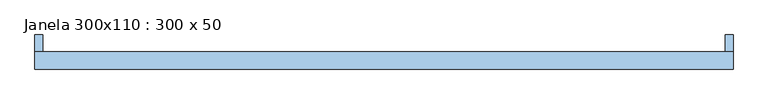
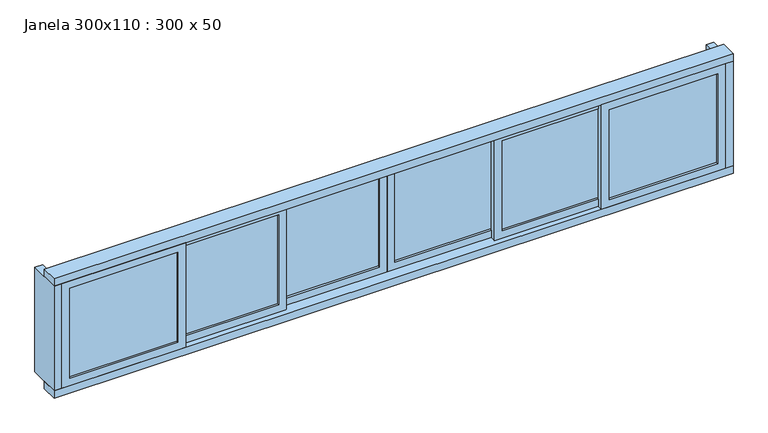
"""IFC4 building model written with IfcOpenShell, lengths in millimetres: window geometry, Janela 300x110 : 300 x 50."""

from ifc_helpers import new_model, si_unit, frame, origin, place, context, project, spatial, polyline, outline, extrude, source, transform, mapped, element, save


def janela_300x110_300_x_50_d4cdcd56(model_context):
    return source(origin(), model_context, "Body", "SweptSolid", [
        extrude(outline(polyline([(94.4035509, -10.3758395), (94.4035509, -16.3758395), (-395.5964491, -16.3758395), (-395.5964491, -10.3758395), (94.4035509, -10.3758395)])), frame((0.0, 0.0, 1635.0), z_axis=(0.0, 0.0, 1.0), x_axis=(1.0, 0.0, 0.0)), (0.0, 0.0, 1.0), 430.0),
        extrude(outline(polyline([(2100.0, 129.4035509), (2100.0, -430.5964491), (1600.0, -430.5964491), (1600.0, 129.4035509), (2100.0, 129.4035509)]), holes=[polyline([(2065.0, 94.4035509), (1635.0, 94.4035509), (1635.0, -395.5964491), (2065.0, -395.5964491), (2065.0, 94.4035509)])]), frame((0.0, -25.8758395, 0.0), z_axis=(0.0, 1.0, 0.0), x_axis=(0.0, 0.0, 1.0)), (0.0, 0.0, 1.0), 25.0),
        extrude(outline(polyline([(-845.5964491, -60.3758395), (-845.5964491, -66.3758395), (-1335.5964491, -66.3758395), (-1335.5964491, -60.3758395), (-845.5964491, -60.3758395)])), frame((0.0, 0.0, 1635.0), z_axis=(0.0, 0.0, 1.0), x_axis=(1.0, 0.0, 0.0)), (0.0, 0.0, 1.0), 430.0),
        extrude(outline(polyline([(2100.0, -810.5964491), (2100.0, -1370.5964491), (1600.0, -1370.5964491), (1600.0, -810.5964491), (2100.0, -810.5964491)]), holes=[polyline([(2065.0, -845.5964491), (1635.0, -845.5964491), (1635.0, -1335.5964491), (2065.0, -1335.5964491), (2065.0, -845.5964491)])]), frame((0.0, -75.8758395, 0.0), z_axis=(0.0, 1.0, 0.0), x_axis=(0.0, 0.0, 1.0)), (0.0, 0.0, 1.0), 25.0),
        extrude(outline(polyline([(-376.1928981, -35.3758395), (-376.1928981, -41.3758395), (-866.1928981, -41.3758395), (-866.1928981, -35.3758395), (-376.1928981, -35.3758395)])), frame((0.0, 0.0, 1635.0), z_axis=(0.0, 0.0, 1.0), x_axis=(1.0, 0.0, 0.0)), (0.0, 0.0, 1.0), 430.0),
        extrude(outline(polyline([(2100.0, -341.1928981), (2100.0, -901.1928981), (1600.0, -901.1928981), (1600.0, -341.1928981), (2100.0, -341.1928981)]), holes=[polyline([(2065.0, -376.1928981), (1635.0, -376.1928981), (1635.0, -866.1928981), (2065.0, -866.1928981), (2065.0, -376.1928981)])]), frame((0.0, -50.8758395, 0.0), z_axis=(0.0, 1.0, 0.0), x_axis=(0.0, 0.0, 1.0)), (0.0, 0.0, 1.0), 25.0),
        extrude(outline(polyline([(164.4035509, -10.3758395), (654.4035509, -10.3758395), (654.4035509, -16.3758395), (164.4035509, -16.3758395), (164.4035509, -10.3758395)])), frame((0.0, 0.0, 1635.0), z_axis=(0.0, 0.0, 1.0), x_axis=(1.0, 0.0, 0.0)), (0.0, 0.0, 1.0), 430.0),
        extrude(outline(polyline([(2100.0, 129.4035509), (1600.0, 129.4035509), (1600.0, 689.4035509), (2100.0, 689.4035509), (2100.0, 129.4035509)]), holes=[polyline([(2065.0, 164.4035509), (2065.0, 654.4035509), (1635.0, 654.4035509), (1635.0, 164.4035509), (2065.0, 164.4035509)])]), frame((0.0, -25.8758395, 0.0), z_axis=(0.0, 1.0, 0.0), x_axis=(0.0, 0.0, 1.0)), (0.0, 0.0, 1.0), 25.0),
        extrude(outline(polyline([(1104.4035509, -60.3758395), (1594.4035509, -60.3758395), (1594.4035509, -66.3758395), (1104.4035509, -66.3758395), (1104.4035509, -60.3758395)])), frame((0.0, 0.0, 1635.0), z_axis=(0.0, 0.0, 1.0), x_axis=(1.0, 0.0, 0.0)), (0.0, 0.0, 1.0), 430.0),
        extrude(outline(polyline([(2100.0, 1069.4035509), (1600.0, 1069.4035509), (1600.0, 1629.4035509), (2100.0, 1629.4035509), (2100.0, 1069.4035509)]), holes=[polyline([(2065.0, 1104.4035509), (2065.0, 1594.4035509), (1635.0, 1594.4035509), (1635.0, 1104.4035509), (2065.0, 1104.4035509)])]), frame((0.0, -75.8758395, 0.0), z_axis=(0.0, 1.0, 0.0), x_axis=(0.0, 0.0, 1.0)), (0.0, 0.0, 1.0), 25.0),
        extrude(outline(polyline([(635.0, -35.3758395), (1125.0, -35.3758395), (1125.0, -41.3758395), (635.0, -41.3758395), (635.0, -35.3758395)])), frame((0.0, 0.0, 1635.0), z_axis=(0.0, 0.0, 1.0), x_axis=(1.0, 0.0, 0.0)), (0.0, 0.0, 1.0), 430.0),
        extrude(outline(polyline([(2100.0, 600.0), (1600.0, 600.0), (1600.0, 1160.0), (2100.0, 1160.0), (2100.0, 600.0)]), holes=[polyline([(2065.0, 635.0), (2065.0, 1125.0), (1635.0, 1125.0), (1635.0, 635.0), (2065.0, 635.0)])]), frame((0.0, -50.8758395, 0.0), z_axis=(0.0, 1.0, 0.0), x_axis=(0.0, 0.0, 1.0)), (0.0, 0.0, 1.0), 25.0),
        extrude(outline(polyline([(-1405.5964491, -0.8758395), (1664.4035509, -0.8758395), (1664.4035509, -75.8758395), (-1405.5964491, -75.8758395), (-1405.5964491, -0.8758395)])), frame((0.0, 0.0, 1565.0), z_axis=(0.0, 0.0, 1.0), x_axis=(1.0, 0.0, 0.0)), (0.0, 0.0, 1.0), 35.0),
        extrude(outline(polyline([(-1405.5964491, 74.1241605), (-1370.5964491, 74.1241605), (-1370.5964491, -75.8758395), (-1405.5964491, -75.8758395), (-1405.5964491, 74.1241605)])), frame((0.0, 0.0, 1600.0), z_axis=(0.0, 0.0, 1.0), x_axis=(1.0, 0.0, 0.0)), (0.0, 0.0, 1.0), 500.0),
        extrude(outline(polyline([(1629.4035509, 74.1241605), (1664.4035509, 74.1241605), (1664.4035509, -75.8758395), (1629.4035509, -75.8758395), (1629.4035509, 74.1241605)])), frame((0.0, 0.0, 1600.0), z_axis=(0.0, 0.0, 1.0), x_axis=(1.0, 0.0, 0.0)), (0.0, 0.0, 1.0), 500.0),
        extrude(outline(polyline([(-1405.5964491, -0.8758395), (1664.4035509, -0.8758395), (1664.4035509, -75.8758395), (-1405.5964491, -75.8758395), (-1405.5964491, -0.8758395)])), frame((0.0, 0.0, 2100.0), z_axis=(0.0, 0.0, 1.0), x_axis=(1.0, 0.0, 0.0)), (0.0, 0.0, 1.0), 35.0),
    ])


if __name__ == "__main__":
    model = new_model("IFC4")
    model_context = context("Model", 3, world=origin())
    ifc_project = project(units=[si_unit("LENGTHUNIT", "METRE", prefix="MILLI")], contexts=[model_context])
    site = spatial("IfcSite", under=ifc_project)
    building = spatial("IfcBuilding", under=site)
    placement = place(None, origin())
    janela_300x110_300_x_50_shape = janela_300x110_300_x_50_d4cdcd56(model_context)
    element("IfcWindow", 1, ObjectType="Janela 300x110 : 300 x 50", at=placement, inside=building, context=model_context, shape_type="MappedRepresentation", body=[
        mapped(janela_300x110_300_x_50_shape, transform((0.0, 0.0, 0.0), x_axis=(1.0, 0.0, 0.0), y_axis=(0.0, 1.0, 0.0), z_axis=(0.0, 0.0, 1.0))),
    ])
    save(model, "model.ifc")
